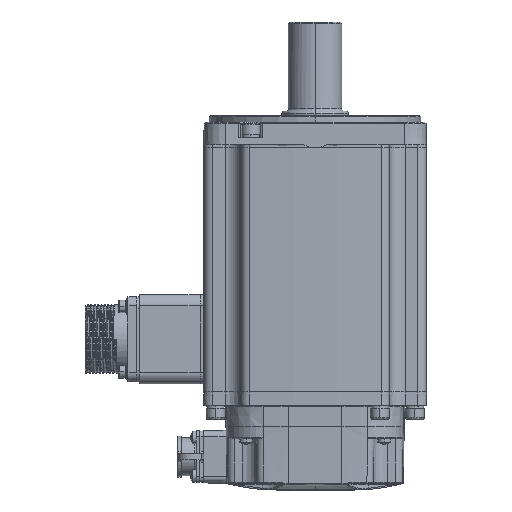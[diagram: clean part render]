
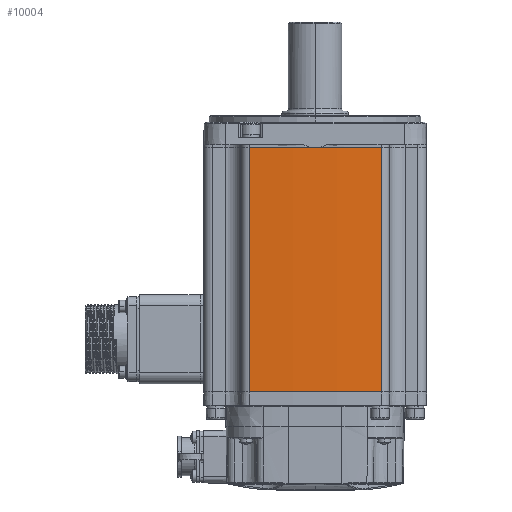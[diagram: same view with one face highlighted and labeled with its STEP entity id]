
A CAD part, left-side view. The second image highlights one B-rep face of the part: STEP entity #10004.
In plain terms, the highlighted cylindrical face has radius 500 mm (diameter 1000 mm), a partial arc.
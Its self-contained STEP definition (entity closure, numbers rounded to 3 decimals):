
#170 = DIRECTION ( 'NONE',  ( 0., 0., -1. ) ) ;
#227 = CARTESIAN_POINT ( 'NONE',  ( -49.121, 29.637, -109.5 ) ) ;
#1148 = CARTESIAN_POINT ( 'NONE',  ( 450., 0., -109.5 ) ) ;
#1929 = CIRCLE ( 'NONE', #11043, 500. ) ;
#3191 = VECTOR ( 'NONE', #170, 1000. ) ;
#3226 = LINE ( 'NONE', #42771, #3191 ) ;
#3813 = EDGE_CURVE ( 'NONE', #3988, #30224, #39774, .T. ) ;
#3984 = EDGE_CURVE ( 'NONE', #34395, #20320, #1929, .T. ) ;
#3988 = VERTEX_POINT ( 'NONE', #30994 ) ;
#5543 = DIRECTION ( 'NONE',  ( 0., 0., -1. ) ) ;
#10004 = ADVANCED_FACE ( 'NONE', ( #19468 ), #15324, .T. ) ;
#11043 = AXIS2_PLACEMENT_3D ( 'NONE', #1148, #28110, #31424 ) ;
#11909 = DIRECTION ( 'NONE',  ( 1., 0., 0. ) ) ;
#12333 = CARTESIAN_POINT ( 'NONE',  ( 450., 0., 0. ) ) ;
#15324 = CYLINDRICAL_SURFACE ( 'NONE', #22178, 500. ) ;
#17240 = ORIENTED_EDGE ( 'NONE', *, *, #29100, .T. ) ;
#17705 = VECTOR ( 'NONE', #37595, 1000. ) ;
#18935 = ORIENTED_EDGE ( 'NONE', *, *, #25565, .T. ) ;
#19468 = FACE_OUTER_BOUND ( 'NONE', #22081, .T. ) ;
#20320 = VERTEX_POINT ( 'NONE', #42521 ) ;
#20642 = ORIENTED_EDGE ( 'NONE', *, *, #3813, .T. ) ;
#20825 = AXIS2_PLACEMENT_3D ( 'NONE', #12333, #5543, #11909 ) ;
#22081 = EDGE_LOOP ( 'NONE', ( #20642, #18935, #40363, #17240 ) ) ;
#22178 = AXIS2_PLACEMENT_3D ( 'NONE', #28710, #42141, #40138 ) ;
#25565 = EDGE_CURVE ( 'NONE', #30224, #34395, #3226, .T. ) ;
#28110 = DIRECTION ( 'NONE',  ( 0., 0., 1. ) ) ;
#28710 = CARTESIAN_POINT ( 'NONE',  ( 450., 0., -109.5 ) ) ;
#29100 = EDGE_CURVE ( 'NONE', #20320, #3988, #40898, .T. ) ;
#30224 = VERTEX_POINT ( 'NONE', #42154 ) ;
#30994 = CARTESIAN_POINT ( 'NONE',  ( -49.121, -29.637, 0. ) ) ;
#31424 = DIRECTION ( 'NONE',  ( 1., 0., 0. ) ) ;
#33868 = CARTESIAN_POINT ( 'NONE',  ( -49.121, -29.637, -109.5 ) ) ;
#34395 = VERTEX_POINT ( 'NONE', #227 ) ;
#37595 = DIRECTION ( 'NONE',  ( 0., 0., 1. ) ) ;
#39774 = CIRCLE ( 'NONE', #20825, 500. ) ;
#40138 = DIRECTION ( 'NONE',  ( 1., 0., 0. ) ) ;
#40363 = ORIENTED_EDGE ( 'NONE', *, *, #3984, .T. ) ;
#40898 = LINE ( 'NONE', #33868, #17705 ) ;
#42141 = DIRECTION ( 'NONE',  ( 0., 0., 1. ) ) ;
#42154 = CARTESIAN_POINT ( 'NONE',  ( -49.121, 29.637, 0. ) ) ;
#42521 = CARTESIAN_POINT ( 'NONE',  ( -49.121, -29.637, -109.5 ) ) ;
#42771 = CARTESIAN_POINT ( 'NONE',  ( -49.121, 29.637, -109.5 ) ) ;
